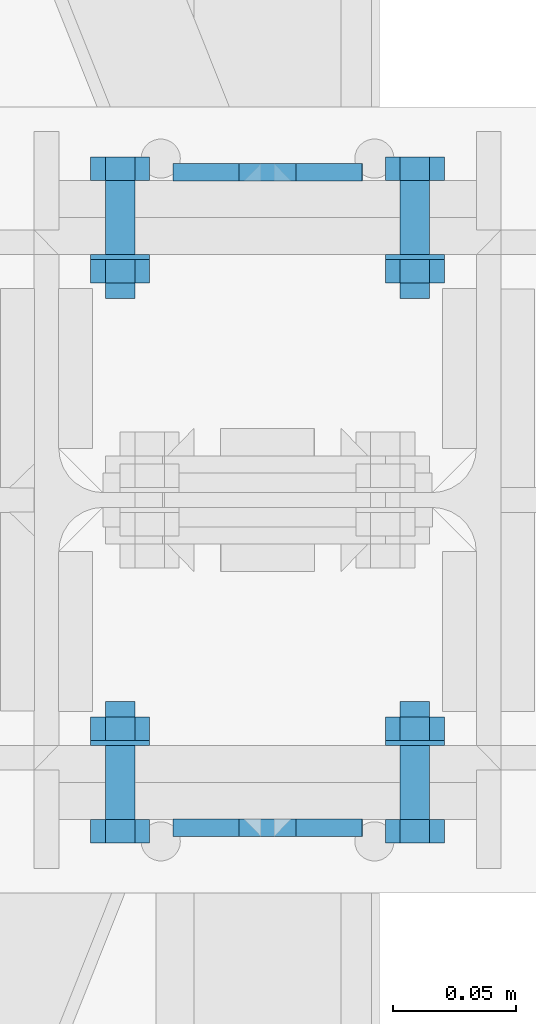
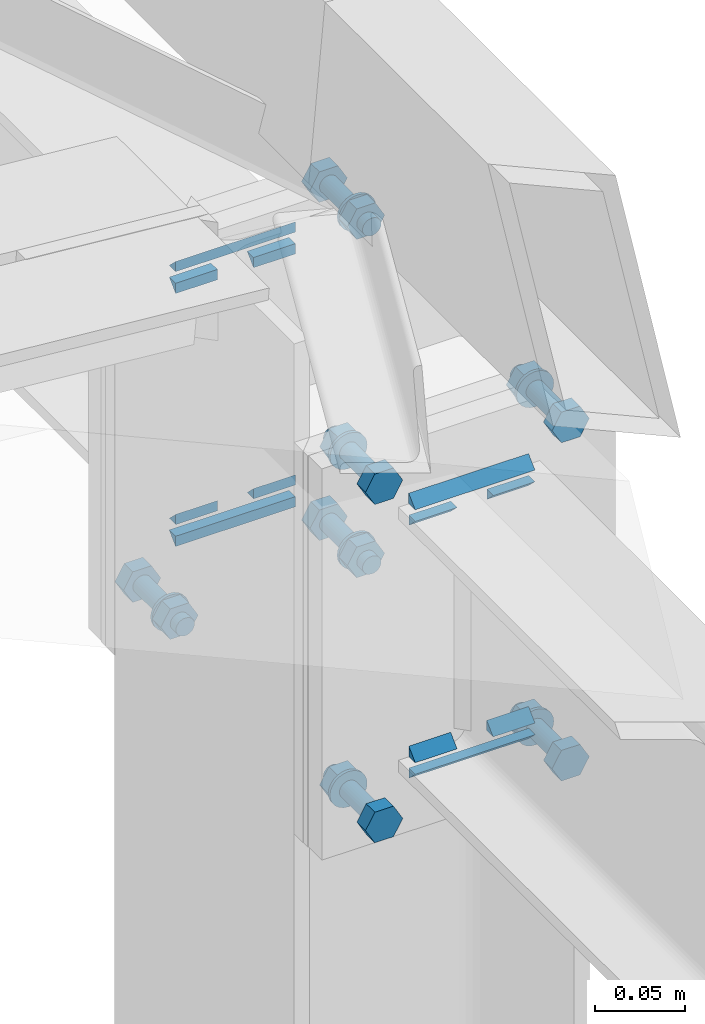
# One storey, part 184 of 251: 28 mechanical fasteners, 24 fasteners.
"""IFC4 building model written with IfcOpenShell, lengths in metres."""

from ifc_helpers import new_model, si_unit, frame, origin_with_axes, place, context, project, spatial, polyline, outline, extrude, type_object, element, save


model = new_model("IFC4")

# Units and contexts
model_context = context("Model", 3, precision=1e-05, world=origin_with_axes())
ifc_project = project(units=[si_unit("LENGTHUNIT", "METRE"), si_unit("AREAUNIT", "SQUARE_METRE"), si_unit("VOLUMEUNIT", "CUBIC_METRE"), si_unit("MASSUNIT", "GRAM", prefix="KILO"), si_unit("TIMEUNIT", "SECOND"), si_unit("PLANEANGLEUNIT", "RADIAN"), si_unit("SOLIDANGLEUNIT", "STERADIAN"), si_unit("THERMODYNAMICTEMPERATUREUNIT", "DEGREE_CELSIUS")], contexts=[model_context])

# Site, building, storey
placement_1 = place(None, origin_with_axes())
site = spatial("IfcSite", under=ifc_project, at=placement_1, Name="Italia", CompositionType="ELEMENT")
building = spatial("IfcBuilding", under=site, at=placement_1, Name="Deposito", CompositionType="ELEMENT")
storey = spatial("IfcBuildingStorey", under=building, at=placement_1, Name="Storey 0", CompositionType="ELEMENT", Elevation=0.0)

# Fasteners
fastener_type_1 = type_object("IfcFastenerType", Name="Collegamenti -064_-065 -065_-064 -065_-066 -066_-065 -066_-067 -067_-066 -067_-068 -068_-067", PredefinedType="WELD")
placement_2 = place(placement_1, origin_with_axes())
fastener_1_placement = place(placement_2, origin_with_axes())
element("IfcFastener", 1, at=fastener_1_placement, inside=storey, type_object=fastener_type_1, Name="Collegamenti -064_-065 -065_-064 -065_-066 -066_-065 -066_-067 -067_-066 -067_-068 -068_-067", context=model_context, shape_type="SweptSolid", body=[
    extrude(outline(polyline([(0.0, 0.0), (0.00717354, -0.00695801), (0.0, -0.00695801), (0.0, 0.0)])), frame((20.0385, 14.8701, 5.89691), z_axis=(-1.0, 0.0, 0.0), x_axis=(0.0, -1.0, 0.0)), (0.0, 0.0, 1.0), 0.0770988),
])
fastener_type_2 = type_object("IfcFastenerType", Name="Collegamenti -064_-065 -065_-064 -065_-066 -066_-065 -066_-067 -067_-066 -067_-068 -068_-067", PredefinedType="WELD")
fastener_2_placement = place(placement_2, origin_with_axes())
element("IfcFastener", 2, at=fastener_2_placement, inside=storey, type_object=fastener_type_2, Name="Collegamenti -064_-065 -065_-064 -065_-066 -066_-065 -066_-067 -067_-066 -067_-068 -068_-067", context=model_context, shape_type="SweptSolid", body=[
    extrude(outline(polyline([(0.0, 0.0), (-0.00717354, 0.00695801), (0.0, 0.00695801), (0.0, 0.0)])), frame((20.0116, 14.8701, 5.87509), z_axis=(1.0, 0.0, 0.0), x_axis=(0.0, 1.0, 0.0)), (0.0, 0.0, 1.0), 0.0269508),
])
fastener_type_3 = type_object("IfcFastenerType", Name="Collegamenti -064_-065 -065_-064 -065_-066 -066_-065 -066_-067 -067_-066 -067_-068 -068_-067", PredefinedType="WELD")
fastener_3_placement = place(placement_2, origin_with_axes())
element("IfcFastener", 3, at=fastener_3_placement, inside=storey, type_object=fastener_type_3, Name="Collegamenti -064_-065 -065_-064 -065_-066 -066_-065 -066_-067 -067_-066 -067_-068 -068_-067", context=model_context, shape_type="SweptSolid", body=[
    extrude(outline(polyline([(0.0, 0.0), (0.00717354, -0.00695801), (0.0, -0.00695801), (0.0, 0.0)])), frame((20.0385, 14.8701, 5.72491), z_axis=(-1.0, 0.0, 0.0), x_axis=(0.0, -1.0, 0.0)), (0.0, 0.0, 1.0), 0.0269508),
])
fastener_type_4 = type_object("IfcFastenerType", Name="Collegamenti -064_-065 -065_-064 -065_-066 -066_-065 -066_-067 -067_-066 -067_-068 -068_-067", PredefinedType="WELD")
fastener_4_placement = place(placement_2, origin_with_axes())
element("IfcFastener", 4, at=fastener_4_placement, inside=storey, type_object=fastener_type_4, Name="Collegamenti -064_-065 -065_-064 -065_-066 -066_-065 -066_-067 -067_-066 -067_-068 -068_-067", context=model_context, shape_type="SweptSolid", body=[
    extrude(outline(polyline([(0.0, 0.0), (-0.00717354, 0.00695801), (0.0, 0.00695801), (0.0, 0.0)])), frame((19.9615, 14.8701, 5.70309), z_axis=(1.0, 0.0, 0.0), x_axis=(0.0, 1.0, 0.0)), (0.0, 0.0, 1.0), 0.0770988),
])
fastener_type_5 = type_object("IfcFastenerType", Name="Collegamenti -064_-065 -065_-064 -065_-066 -066_-065 -066_-067 -067_-066 -067_-068 -068_-067", PredefinedType="WELD")
fastener_5_placement = place(placement_2, origin_with_axes())
element("IfcFastener", 5, at=fastener_5_placement, inside=storey, type_object=fastener_type_5, Name="Collegamenti -064_-065 -065_-064 -065_-066 -066_-065 -066_-067 -067_-066 -067_-068 -068_-067", context=model_context, shape_type="SweptSolid", body=[
    extrude(outline(polyline([(0.0, 0.0), (0.00717354, -0.00695801), (0.0, -0.00695801), (0.0, 0.0)])), frame((19.9884, 14.8701, 5.72491), z_axis=(-1.0, 0.0, 0.0), x_axis=(0.0, -1.0, 0.0)), (0.0, 0.0, 1.0), 0.0269508),
])
fastener_type_6 = type_object("IfcFastenerType", Name="Collegamenti -064_-065 -065_-064 -065_-066 -066_-065 -066_-067 -067_-066 -067_-068 -068_-067", PredefinedType="WELD")
fastener_6_placement = place(placement_2, origin_with_axes())
element("IfcFastener", 6, at=fastener_6_placement, inside=storey, type_object=fastener_type_6, Name="Collegamenti -064_-065 -065_-064 -065_-066 -066_-065 -066_-067 -067_-066 -067_-068 -068_-067", context=model_context, shape_type="SweptSolid", body=[
    extrude(outline(polyline([(0.0, 0.0), (-0.00717354, 0.00695801), (0.0, 0.00695801), (0.0, 0.0)])), frame((19.9615, 14.8701, 5.87509), z_axis=(1.0, 0.0, 0.0), x_axis=(0.0, 1.0, 0.0)), (0.0, 0.0, 1.0), 0.0269508),
])
fastener_type_7 = type_object("IfcFastenerType", Name="Collegamenti -064_-065 -065_-064 -065_-066 -066_-065 -066_-067 -067_-066 -067_-068 -068_-067", PredefinedType="WELD")
fastener_7_placement = place(placement_2, origin_with_axes())
element("IfcFastener", 7, at=fastener_7_placement, inside=storey, type_object=fastener_type_7, Name="Collegamenti -064_-065 -065_-064 -065_-066 -066_-065 -066_-067 -067_-066 -067_-068 -068_-067", context=model_context, shape_type="SweptSolid", body=[
    extrude(outline(polyline([(0.0, 0.0), (0.00717354, -0.00695801), (0.0, -0.00695801), (0.0, 0.0)])), frame((20.0385, 14.8701, 5.89691), z_axis=(-1.0, 0.0, 0.0), x_axis=(0.0, -1.0, 0.0)), (0.0, 0.0, 1.0), 0.0770988),
])
fastener_type_8 = type_object("IfcFastenerType", Name="Collegamenti -064_-065 -065_-064 -065_-066 -066_-065 -066_-067 -067_-066 -067_-068 -068_-067", PredefinedType="WELD")
fastener_8_placement = place(placement_2, origin_with_axes())
element("IfcFastener", 8, at=fastener_8_placement, inside=storey, type_object=fastener_type_8, Name="Collegamenti -064_-065 -065_-064 -065_-066 -066_-065 -066_-067 -067_-066 -067_-068 -068_-067", context=model_context, shape_type="SweptSolid", body=[
    extrude(outline(polyline([(0.0, 0.0), (-0.00717354, 0.00695801), (0.0, 0.00695801), (0.0, 0.0)])), frame((20.0116, 14.8701, 5.87509), z_axis=(1.0, 0.0, 0.0), x_axis=(0.0, 1.0, 0.0)), (0.0, 0.0, 1.0), 0.0269508),
])
fastener_type_9 = type_object("IfcFastenerType", Name="Collegamenti -064_-065 -065_-064 -065_-066 -066_-065 -066_-067 -067_-066 -067_-068 -068_-067", PredefinedType="WELD")
fastener_9_placement = place(placement_2, origin_with_axes())
element("IfcFastener", 9, at=fastener_9_placement, inside=storey, type_object=fastener_type_9, Name="Collegamenti -064_-065 -065_-064 -065_-066 -066_-065 -066_-067 -067_-066 -067_-068 -068_-067", context=model_context, shape_type="SweptSolid", body=[
    extrude(outline(polyline([(0.0, 0.0), (0.00717354, -0.00695801), (0.0, -0.00695801), (0.0, 0.0)])), frame((20.0385, 14.8701, 5.72491), z_axis=(-1.0, 0.0, 0.0), x_axis=(0.0, -1.0, 0.0)), (0.0, 0.0, 1.0), 0.0269508),
])
fastener_type_10 = type_object("IfcFastenerType", Name="Collegamenti -064_-065 -065_-064 -065_-066 -066_-065 -066_-067 -067_-066 -067_-068 -068_-067", PredefinedType="WELD")
fastener_10_placement = place(placement_2, origin_with_axes())
element("IfcFastener", 10, at=fastener_10_placement, inside=storey, type_object=fastener_type_10, Name="Collegamenti -064_-065 -065_-064 -065_-066 -066_-065 -066_-067 -067_-066 -067_-068 -068_-067", context=model_context, shape_type="SweptSolid", body=[
    extrude(outline(polyline([(0.0, 0.0), (-0.00717354, 0.00695801), (0.0, 0.00695801), (0.0, 0.0)])), frame((19.9615, 14.8701, 5.70309), z_axis=(1.0, 0.0, 0.0), x_axis=(0.0, 1.0, 0.0)), (0.0, 0.0, 1.0), 0.0770988),
])
fastener_type_11 = type_object("IfcFastenerType", Name="Collegamenti -064_-065 -065_-064 -065_-066 -066_-065 -066_-067 -067_-066 -067_-068 -068_-067", PredefinedType="WELD")
fastener_11_placement = place(placement_2, origin_with_axes())
element("IfcFastener", 11, at=fastener_11_placement, inside=storey, type_object=fastener_type_11, Name="Collegamenti -064_-065 -065_-064 -065_-066 -066_-065 -066_-067 -067_-066 -067_-068 -068_-067", context=model_context, shape_type="SweptSolid", body=[
    extrude(outline(polyline([(0.0, 0.0), (0.00717354, -0.00695801), (0.0, -0.00695801), (0.0, 0.0)])), frame((19.9884, 14.8701, 5.72491), z_axis=(-1.0, 0.0, 0.0), x_axis=(0.0, -1.0, 0.0)), (0.0, 0.0, 1.0), 0.0269508),
])
fastener_type_12 = type_object("IfcFastenerType", Name="Collegamenti -064_-065 -065_-064 -065_-066 -066_-065 -066_-067 -067_-066 -067_-068 -068_-067", PredefinedType="WELD")
fastener_12_placement = place(placement_2, origin_with_axes())
element("IfcFastener", 12, at=fastener_12_placement, inside=storey, type_object=fastener_type_12, Name="Collegamenti -064_-065 -065_-064 -065_-066 -066_-065 -066_-067 -067_-066 -067_-068 -068_-067", context=model_context, shape_type="SweptSolid", body=[
    extrude(outline(polyline([(0.0, 0.0), (-0.00717354, 0.00695801), (0.0, 0.00695801), (0.0, 0.0)])), frame((19.9615, 14.8701, 5.87509), z_axis=(1.0, 0.0, 0.0), x_axis=(0.0, 1.0, 0.0)), (0.0, 0.0, 1.0), 0.0269508),
])

# Mechanical fasteners
mechanical_fastener_type_1 = type_object("IfcMechanicalFastenerType", Name="Collegamenti -064_-065 -065_-064 -065_-066 -066_-065 -066_-067 -067_-066 -067_-068 -068_-067", PredefinedType="BOLT")
mechanical_fastener_1_placement = place(placement_2, origin_with_axes())
element("IfcMechanicalFastener", 13, at=mechanical_fastener_1_placement, inside=storey, type_object=mechanical_fastener_type_1, Name="Collegamenti -064_-065 -065_-064 -065_-066 -066_-065 -066_-067 -067_-066 -067_-068 -068_-067", NominalDiameter=0.0119991, context=model_context, shape_type="SweptSolid", body=[
    extrude(outline(polyline([(0.0, 0.0), (-0.0119991, 0.0), (-0.0179996, 0.0103927), (-0.0119991, 0.0207849), (0.0, 0.0207849), (0.00600052, 0.0103927), (0.0, 0.0)])), frame((19.946, 14.87, 5.67461), z_axis=(0.0, -1.0, 0.0), x_axis=(1.0, 0.0, 0.0)), (0.0, 0.0, 1.0), 0.00959969),
])
mechanical_fastener_type_2 = type_object("IfcMechanicalFastenerType", Name="Collegamenti -064_-065 -065_-064 -065_-066 -066_-065 -066_-067 -067_-066 -067_-068 -068_-067", PredefinedType="BOLT")
mechanical_fastener_2_placement = place(placement_2, origin_with_axes())
element("IfcMechanicalFastener", 14, at=mechanical_fastener_2_placement, inside=storey, type_object=mechanical_fastener_type_2, Name="Collegamenti -064_-065 -065_-064 -065_-066 -066_-065 -066_-067 -067_-066 -067_-068 -068_-067", NominalDiameter=0.012, context=model_context, shape_type="SweptSolid", body=[
    extrude(outline(polyline([(0.0, 0.0), (-0.000204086, -0.00155306), (-0.000804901, -0.00299978), (-0.00175858, -0.00424242), (-0.00300026, -0.00519609), (-0.00444794, -0.00579548), (-0.00600052, -0.00600004), (-0.0075531, -0.00579548), (-0.00900078, -0.00519609), (-0.0102425, -0.00424242), (-0.0111961, -0.00299978), (-0.011797, -0.00155306), (-0.012001, 0.0), (-0.011797, 0.00155306), (-0.0111961, 0.00299978), (-0.0102425, 0.00424242), (-0.00900078, 0.00519609), (-0.0075531, 0.00579548), (-0.00600052, 0.00600004), (-0.00444794, 0.00579548), (-0.00300026, 0.00519609), (-0.00175858, 0.00424242), (-0.000804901, 0.00299978), (-0.000204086, 0.00155306), (0.0, 0.0)])), frame((19.946, 14.918, 5.685), z_axis=(0.0, -1.0, 0.0), x_axis=(1.0, 0.0, 0.0)), (0.0, 0.0, 1.0), 0.0480003),
])
mechanical_fastener_type_3 = type_object("IfcMechanicalFastenerType", Name="Collegamenti -064_-065 -065_-064 -065_-066 -066_-065 -066_-067 -067_-066 -067_-068 -068_-067", PredefinedType="BOLT")
mechanical_fastener_3_placement = place(placement_2, origin_with_axes())
element("IfcMechanicalFastener", 15, at=mechanical_fastener_3_placement, inside=storey, type_object=mechanical_fastener_type_3, Name="Collegamenti -064_-065 -065_-064 -065_-066 -066_-065 -066_-067 -067_-066 -067_-068 -068_-067", NominalDiameter=0.0119991, context=model_context, shape_type="SweptSolid", body=[
    extrude(outline(polyline([(0.0, 0.0), (-0.0119991, 0.0), (-0.0179996, 0.0103927), (-0.0119991, 0.0207849), (0.0, 0.0207849), (0.00600052, 0.0103927), (0.0, 0.0)])), frame((19.946, 14.9116, 5.67461), z_axis=(0.0, -1.0, 0.0), x_axis=(1.0, 0.0, 0.0)), (0.0, 0.0, 1.0), 0.00959969),
])
mechanical_fastener_type_4 = type_object("IfcMechanicalFastenerType", Name="Collegamenti -064_-065 -065_-064 -065_-066 -066_-065 -066_-067 -067_-066 -067_-068 -068_-067", PredefinedType="BOLT")
mechanical_fastener_4_placement = place(placement_2, origin_with_axes())
element("IfcMechanicalFastener", 16, at=mechanical_fastener_4_placement, inside=storey, type_object=mechanical_fastener_type_4, Name="Collegamenti -064_-065 -065_-064 -065_-066 -066_-065 -066_-067 -067_-066 -067_-068 -068_-067", NominalDiameter=0.024, context=model_context, shape_type="SweptSolid", body=[
    extrude(outline(polyline([(0.0, 0.0), (-0.000408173, -0.00310564), (-0.00160599, -0.00600004), (-0.00351334, -0.00848532), (-0.00599861, -0.0103922), (-0.00889397, -0.011591), (-0.0119991, -0.0120001), (-0.0151043, -0.011591), (-0.0179996, -0.0103922), (-0.0204849, -0.00848532), (-0.0223923, -0.00600004), (-0.0235901, -0.00310564), (-0.0239983, 0.0), (-0.0235901, 0.00310564), (-0.0223923, 0.00600004), (-0.0204849, 0.00848532), (-0.0179996, 0.0103922), (-0.0151043, 0.011591), (-0.0119991, 0.0120001), (-0.00889397, 0.011591), (-0.00599861, 0.0103922), (-0.00351334, 0.00848532), (-0.00160599, 0.00600004), (-0.000408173, 0.00310564), (0.0, 0.0)])), frame((19.952, 14.902, 5.685), z_axis=(0.0, -1.0, 0.0), x_axis=(1.0, 0.0, 0.0)), (0.0, 0.0, 1.0), 0.00200081),
])
mechanical_fastener_type_5 = type_object("IfcMechanicalFastenerType", Name="Collegamenti -064_-065 -065_-064 -065_-066 -066_-065 -066_-067 -067_-066 -067_-068 -068_-067", PredefinedType="BOLT")
mechanical_fastener_5_placement = place(placement_2, origin_with_axes())
element("IfcMechanicalFastener", 17, at=mechanical_fastener_5_placement, inside=storey, type_object=mechanical_fastener_type_5, Name="Collegamenti -064_-065 -065_-064 -065_-066 -066_-065 -066_-067 -067_-066 -067_-068 -068_-067", NominalDiameter=0.0119991, context=model_context, shape_type="SweptSolid", body=[
    extrude(outline(polyline([(0.0, 0.0), (-0.0119991, 0.0), (-0.0179996, 0.0103927), (-0.0119991, 0.0207849), (0.0, 0.0207849), (0.00600052, 0.0103927), (0.0, 0.0)])), frame((20.066, 14.87, 5.67461), z_axis=(0.0, -1.0, 0.0), x_axis=(1.0, 0.0, 0.0)), (0.0, 0.0, 1.0), 0.00959969),
])
mechanical_fastener_type_6 = type_object("IfcMechanicalFastenerType", Name="Collegamenti -064_-065 -065_-064 -065_-066 -066_-065 -066_-067 -067_-066 -067_-068 -068_-067", PredefinedType="BOLT")
mechanical_fastener_6_placement = place(placement_2, origin_with_axes())
element("IfcMechanicalFastener", 18, at=mechanical_fastener_6_placement, inside=storey, type_object=mechanical_fastener_type_6, Name="Collegamenti -064_-065 -065_-064 -065_-066 -066_-065 -066_-067 -067_-066 -067_-068 -068_-067", NominalDiameter=0.012, context=model_context, shape_type="SweptSolid", body=[
    extrude(outline(polyline([(0.0, 0.0), (-0.000204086, -0.00155306), (-0.000804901, -0.00299978), (-0.00175858, -0.00424242), (-0.00300026, -0.00519609), (-0.00444794, -0.00579548), (-0.00600052, -0.00600004), (-0.0075531, -0.00579548), (-0.00900078, -0.00519609), (-0.0102425, -0.00424242), (-0.0111961, -0.00299978), (-0.011797, -0.00155306), (-0.012001, 0.0), (-0.011797, 0.00155306), (-0.0111961, 0.00299978), (-0.0102425, 0.00424242), (-0.00900078, 0.00519609), (-0.0075531, 0.00579548), (-0.00600052, 0.00600004), (-0.00444794, 0.00579548), (-0.00300026, 0.00519609), (-0.00175858, 0.00424242), (-0.000804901, 0.00299978), (-0.000204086, 0.00155306), (0.0, 0.0)])), frame((20.066, 14.918, 5.685), z_axis=(0.0, -1.0, 0.0), x_axis=(1.0, 0.0, 0.0)), (0.0, 0.0, 1.0), 0.0480003),
])
mechanical_fastener_type_7 = type_object("IfcMechanicalFastenerType", Name="Collegamenti -064_-065 -065_-064 -065_-066 -066_-065 -066_-067 -067_-066 -067_-068 -068_-067", PredefinedType="BOLT")
mechanical_fastener_7_placement = place(placement_2, origin_with_axes())
element("IfcMechanicalFastener", 19, at=mechanical_fastener_7_placement, inside=storey, type_object=mechanical_fastener_type_7, Name="Collegamenti -064_-065 -065_-064 -065_-066 -066_-065 -066_-067 -067_-066 -067_-068 -068_-067", NominalDiameter=0.0119991, context=model_context, shape_type="SweptSolid", body=[
    extrude(outline(polyline([(0.0, 0.0), (-0.0119991, 0.0), (-0.0179996, 0.0103927), (-0.0119991, 0.0207849), (0.0, 0.0207849), (0.00600052, 0.0103927), (0.0, 0.0)])), frame((20.066, 14.9116, 5.67461), z_axis=(0.0, -1.0, 0.0), x_axis=(1.0, 0.0, 0.0)), (0.0, 0.0, 1.0), 0.00959969),
])
mechanical_fastener_type_8 = type_object("IfcMechanicalFastenerType", Name="Collegamenti -064_-065 -065_-064 -065_-066 -066_-065 -066_-067 -067_-066 -067_-068 -068_-067", PredefinedType="BOLT")
mechanical_fastener_8_placement = place(placement_2, origin_with_axes())
element("IfcMechanicalFastener", 20, at=mechanical_fastener_8_placement, inside=storey, type_object=mechanical_fastener_type_8, Name="Collegamenti -064_-065 -065_-064 -065_-066 -066_-065 -066_-067 -067_-066 -067_-068 -068_-067", NominalDiameter=0.024, context=model_context, shape_type="SweptSolid", body=[
    extrude(outline(polyline([(0.0, 0.0), (-0.000408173, -0.00310564), (-0.00160599, -0.00600004), (-0.00351334, -0.00848532), (-0.00599861, -0.0103922), (-0.00889397, -0.011591), (-0.0119991, -0.0120001), (-0.0151043, -0.011591), (-0.0179996, -0.0103922), (-0.0204849, -0.00848532), (-0.0223923, -0.00600004), (-0.0235901, -0.00310564), (-0.0239983, 0.0), (-0.0235901, 0.00310564), (-0.0223923, 0.00600004), (-0.0204849, 0.00848532), (-0.0179996, 0.0103922), (-0.0151043, 0.011591), (-0.0119991, 0.0120001), (-0.00889397, 0.011591), (-0.00599861, 0.0103922), (-0.00351334, 0.00848532), (-0.00160599, 0.00600004), (-0.000408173, 0.00310564), (0.0, 0.0)])), frame((20.072, 14.902, 5.685), z_axis=(0.0, -1.0, 0.0), x_axis=(1.0, 0.0, 0.0)), (0.0, 0.0, 1.0), 0.00200081),
])
mechanical_fastener_type_9 = type_object("IfcMechanicalFastenerType", Name="Collegamenti -064_-065 -065_-064 -065_-066 -066_-065 -066_-067 -067_-066 -067_-068 -068_-067", PredefinedType="BOLT")
mechanical_fastener_9_placement = place(placement_2, origin_with_axes())
element("IfcMechanicalFastener", 21, at=mechanical_fastener_9_placement, inside=storey, type_object=mechanical_fastener_type_9, Name="Collegamenti -064_-065 -065_-064 -065_-066 -066_-065 -066_-067 -067_-066 -067_-068 -068_-067", NominalDiameter=0.0119991, context=model_context, shape_type="SweptSolid", body=[
    extrude(outline(polyline([(0.0, 0.0), (-0.0119991, 0.0), (-0.0179996, 0.0103922), (-0.0119991, 0.0207849), (0.0, 0.0207849), (0.00600052, 0.0103922), (0.0, 0.0)])), frame((19.946, 14.87, 5.90461), z_axis=(0.0, -1.0, 0.0), x_axis=(1.0, 0.0, 0.0)), (0.0, 0.0, 1.0), 0.00959969),
])
mechanical_fastener_type_10 = type_object("IfcMechanicalFastenerType", Name="Collegamenti -064_-065 -065_-064 -065_-066 -066_-065 -066_-067 -067_-066 -067_-068 -068_-067", PredefinedType="BOLT")
mechanical_fastener_10_placement = place(placement_2, origin_with_axes())
element("IfcMechanicalFastener", 22, at=mechanical_fastener_10_placement, inside=storey, type_object=mechanical_fastener_type_10, Name="Collegamenti -064_-065 -065_-064 -065_-066 -066_-065 -066_-067 -067_-066 -067_-068 -068_-067", NominalDiameter=0.012, context=model_context, shape_type="SweptSolid", body=[
    extrude(outline(polyline([(0.0, 0.0), (-0.000204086, -0.00155306), (-0.000804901, -0.00299978), (-0.00175858, -0.00424242), (-0.00300026, -0.00519609), (-0.00444794, -0.00579548), (-0.00600052, -0.00600004), (-0.0075531, -0.00579548), (-0.00900078, -0.00519609), (-0.0102425, -0.00424242), (-0.0111961, -0.00299978), (-0.011797, -0.00155306), (-0.012001, 0.0), (-0.011797, 0.00155306), (-0.0111961, 0.00299978), (-0.0102425, 0.00424242), (-0.00900078, 0.00519609), (-0.0075531, 0.00579548), (-0.00600052, 0.00600004), (-0.00444794, 0.00579548), (-0.00300026, 0.00519609), (-0.00175858, 0.00424242), (-0.000804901, 0.00299978), (-0.000204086, 0.00155306), (0.0, 0.0)])), frame((19.946, 14.918, 5.915), z_axis=(0.0, -1.0, 0.0), x_axis=(1.0, 0.0, 0.0)), (0.0, 0.0, 1.0), 0.0480003),
])
mechanical_fastener_type_11 = type_object("IfcMechanicalFastenerType", Name="Collegamenti -064_-065 -065_-064 -065_-066 -066_-065 -066_-067 -067_-066 -067_-068 -068_-067", PredefinedType="BOLT")
mechanical_fastener_11_placement = place(placement_2, origin_with_axes())
element("IfcMechanicalFastener", 23, at=mechanical_fastener_11_placement, inside=storey, type_object=mechanical_fastener_type_11, Name="Collegamenti -064_-065 -065_-064 -065_-066 -066_-065 -066_-067 -067_-066 -067_-068 -068_-067", NominalDiameter=0.0119991, context=model_context, shape_type="SweptSolid", body=[
    extrude(outline(polyline([(0.0, 0.0), (-0.0119991, 0.0), (-0.0179996, 0.0103922), (-0.0119991, 0.0207849), (0.0, 0.0207849), (0.00600052, 0.0103922), (0.0, 0.0)])), frame((19.946, 14.9116, 5.90461), z_axis=(0.0, -1.0, 0.0), x_axis=(1.0, 0.0, 0.0)), (0.0, 0.0, 1.0), 0.00959969),
])
mechanical_fastener_type_12 = type_object("IfcMechanicalFastenerType", Name="Collegamenti -064_-065 -065_-064 -065_-066 -066_-065 -066_-067 -067_-066 -067_-068 -068_-067", PredefinedType="BOLT")
mechanical_fastener_12_placement = place(placement_2, origin_with_axes())
element("IfcMechanicalFastener", 24, at=mechanical_fastener_12_placement, inside=storey, type_object=mechanical_fastener_type_12, Name="Collegamenti -064_-065 -065_-064 -065_-066 -066_-065 -066_-067 -067_-066 -067_-068 -068_-067", NominalDiameter=0.024, context=model_context, shape_type="SweptSolid", body=[
    extrude(outline(polyline([(0.0, 0.0), (-0.000408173, -0.00310564), (-0.00160599, -0.00600004), (-0.00351334, -0.00848532), (-0.00599861, -0.0103922), (-0.00889397, -0.011591), (-0.0119991, -0.0120001), (-0.0151043, -0.011591), (-0.0179996, -0.0103922), (-0.0204849, -0.00848532), (-0.0223923, -0.00600004), (-0.0235901, -0.00310564), (-0.0239983, 0.0), (-0.0235901, 0.00310564), (-0.0223923, 0.00600004), (-0.0204849, 0.00848532), (-0.0179996, 0.0103922), (-0.0151043, 0.011591), (-0.0119991, 0.0120001), (-0.00889397, 0.011591), (-0.00599861, 0.0103922), (-0.00351334, 0.00848532), (-0.00160599, 0.00600004), (-0.000408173, 0.00310564), (0.0, 0.0)])), frame((19.952, 14.902, 5.915), z_axis=(0.0, -1.0, 0.0), x_axis=(1.0, 0.0, 0.0)), (0.0, 0.0, 1.0), 0.00200081),
])
mechanical_fastener_type_13 = type_object("IfcMechanicalFastenerType", Name="Collegamenti -064_-065 -065_-064 -065_-066 -066_-065 -066_-067 -067_-066 -067_-068 -068_-067", PredefinedType="BOLT")
mechanical_fastener_13_placement = place(placement_2, origin_with_axes())
element("IfcMechanicalFastener", 25, at=mechanical_fastener_13_placement, inside=storey, type_object=mechanical_fastener_type_13, Name="Collegamenti -064_-065 -065_-064 -065_-066 -066_-065 -066_-067 -067_-066 -067_-068 -068_-067", NominalDiameter=0.0119991, context=model_context, shape_type="SweptSolid", body=[
    extrude(outline(polyline([(0.0, 0.0), (-0.0119991, 0.0), (-0.0179996, 0.0103922), (-0.0119991, 0.0207849), (0.0, 0.0207849), (0.00600052, 0.0103922), (0.0, 0.0)])), frame((20.066, 14.87, 5.90461), z_axis=(0.0, -1.0, 0.0), x_axis=(1.0, 0.0, 0.0)), (0.0, 0.0, 1.0), 0.00959969),
])
mechanical_fastener_type_14 = type_object("IfcMechanicalFastenerType", Name="Collegamenti -064_-065 -065_-064 -065_-066 -066_-065 -066_-067 -067_-066 -067_-068 -068_-067", PredefinedType="BOLT")
mechanical_fastener_14_placement = place(placement_2, origin_with_axes())
element("IfcMechanicalFastener", 26, at=mechanical_fastener_14_placement, inside=storey, type_object=mechanical_fastener_type_14, Name="Collegamenti -064_-065 -065_-064 -065_-066 -066_-065 -066_-067 -067_-066 -067_-068 -068_-067", NominalDiameter=0.012, context=model_context, shape_type="SweptSolid", body=[
    extrude(outline(polyline([(0.0, 0.0), (-0.000204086, -0.00155306), (-0.000804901, -0.00299978), (-0.00175858, -0.00424242), (-0.00300026, -0.00519609), (-0.00444794, -0.00579548), (-0.00600052, -0.00600004), (-0.0075531, -0.00579548), (-0.00900078, -0.00519609), (-0.0102425, -0.00424242), (-0.0111961, -0.00299978), (-0.011797, -0.00155306), (-0.012001, 0.0), (-0.011797, 0.00155306), (-0.0111961, 0.00299978), (-0.0102425, 0.00424242), (-0.00900078, 0.00519609), (-0.0075531, 0.00579548), (-0.00600052, 0.00600004), (-0.00444794, 0.00579548), (-0.00300026, 0.00519609), (-0.00175858, 0.00424242), (-0.000804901, 0.00299978), (-0.000204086, 0.00155306), (0.0, 0.0)])), frame((20.066, 14.918, 5.915), z_axis=(0.0, -1.0, 0.0), x_axis=(1.0, 0.0, 0.0)), (0.0, 0.0, 1.0), 0.0480003),
])
mechanical_fastener_type_15 = type_object("IfcMechanicalFastenerType", Name="Collegamenti -064_-065 -065_-064 -065_-066 -066_-065 -066_-067 -067_-066 -067_-068 -068_-067", PredefinedType="BOLT")
mechanical_fastener_15_placement = place(placement_2, origin_with_axes())
element("IfcMechanicalFastener", 27, at=mechanical_fastener_15_placement, inside=storey, type_object=mechanical_fastener_type_15, Name="Collegamenti -064_-065 -065_-064 -065_-066 -066_-065 -066_-067 -067_-066 -067_-068 -068_-067", NominalDiameter=0.0119991, context=model_context, shape_type="SweptSolid", body=[
    extrude(outline(polyline([(0.0, 0.0), (-0.0119991, 0.0), (-0.0179996, 0.0103922), (-0.0119991, 0.0207849), (0.0, 0.0207849), (0.00600052, 0.0103922), (0.0, 0.0)])), frame((20.066, 14.9116, 5.90461), z_axis=(0.0, -1.0, 0.0), x_axis=(1.0, 0.0, 0.0)), (0.0, 0.0, 1.0), 0.00959969),
])
mechanical_fastener_type_16 = type_object("IfcMechanicalFastenerType", Name="Collegamenti -064_-065 -065_-064 -065_-066 -066_-065 -066_-067 -067_-066 -067_-068 -068_-067", PredefinedType="BOLT")
mechanical_fastener_16_placement = place(placement_2, origin_with_axes())
element("IfcMechanicalFastener", 28, at=mechanical_fastener_16_placement, inside=storey, type_object=mechanical_fastener_type_16, Name="Collegamenti -064_-065 -065_-064 -065_-066 -066_-065 -066_-067 -067_-066 -067_-068 -068_-067", NominalDiameter=0.024, context=model_context, shape_type="SweptSolid", body=[
    extrude(outline(polyline([(0.0, 0.0), (-0.000408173, -0.00310564), (-0.00160599, -0.00600004), (-0.00351334, -0.00848532), (-0.00599861, -0.0103922), (-0.00889397, -0.011591), (-0.0119991, -0.0120001), (-0.0151043, -0.011591), (-0.0179996, -0.0103922), (-0.0204849, -0.00848532), (-0.0223923, -0.00600004), (-0.0235901, -0.00310564), (-0.0239983, 0.0), (-0.0235901, 0.00310564), (-0.0223923, 0.00600004), (-0.0204849, 0.00848532), (-0.0179996, 0.0103922), (-0.0151043, 0.011591), (-0.0119991, 0.0120001), (-0.00889397, 0.011591), (-0.00599861, 0.0103922), (-0.00351334, 0.00848532), (-0.00160599, 0.00600004), (-0.000408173, 0.00310564), (0.0, 0.0)])), frame((20.072, 14.902, 5.915), z_axis=(0.0, -1.0, 0.0), x_axis=(1.0, 0.0, 0.0)), (0.0, 0.0, 1.0), 0.00200081),
])

# Fasteners
fastener_type_13 = type_object("IfcFastenerType", Name="Collegamenti -064_-065 -065_-064 -065_-066 -066_-065 -066_-067 -067_-066 -067_-068 -068_-067", PredefinedType="WELD")
fastener_13_placement = place(placement_2, origin_with_axes())
element("IfcFastener", 29, at=fastener_13_placement, inside=storey, type_object=fastener_type_13, Name="Collegamenti -064_-065 -065_-064 -065_-066 -066_-065 -066_-067 -067_-066 -067_-068 -068_-067", context=model_context, shape_type="SweptSolid", body=[
    extrude(outline(polyline([(0.0, 0.0), (0.00717354, -0.00695801), (0.0, -0.00695801), (0.0, 0.0)])), frame((19.9615, 15.1299, 5.89691), z_axis=(1.0, 0.0, 0.0), x_axis=(0.0, 1.0, 0.0)), (0.0, 0.0, 1.0), 0.0770988),
])
fastener_type_14 = type_object("IfcFastenerType", Name="Collegamenti -064_-065 -065_-064 -065_-066 -066_-065 -066_-067 -067_-066 -067_-068 -068_-067", PredefinedType="WELD")
fastener_14_placement = place(placement_2, origin_with_axes())
element("IfcFastener", 30, at=fastener_14_placement, inside=storey, type_object=fastener_type_14, Name="Collegamenti -064_-065 -065_-064 -065_-066 -066_-065 -066_-067 -067_-066 -067_-068 -068_-067", context=model_context, shape_type="SweptSolid", body=[
    extrude(outline(polyline([(0.0, 0.0), (-0.00717354, 0.00695801), (0.0, 0.00695801), (0.0, 0.0)])), frame((19.9884, 15.1299, 5.87509), z_axis=(-1.0, 0.0, 0.0), x_axis=(0.0, -1.0, 0.0)), (0.0, 0.0, 1.0), 0.0269508),
])
fastener_type_15 = type_object("IfcFastenerType", Name="Collegamenti -064_-065 -065_-064 -065_-066 -066_-065 -066_-067 -067_-066 -067_-068 -068_-067", PredefinedType="WELD")
fastener_15_placement = place(placement_2, origin_with_axes())
element("IfcFastener", 31, at=fastener_15_placement, inside=storey, type_object=fastener_type_15, Name="Collegamenti -064_-065 -065_-064 -065_-066 -066_-065 -066_-067 -067_-066 -067_-068 -068_-067", context=model_context, shape_type="SweptSolid", body=[
    extrude(outline(polyline([(0.0, 0.0), (0.00717354, -0.00695801), (0.0, -0.00695801), (0.0, 0.0)])), frame((19.9615, 15.1299, 5.72491), z_axis=(1.0, 0.0, 0.0), x_axis=(0.0, 1.0, 0.0)), (0.0, 0.0, 1.0), 0.0269508),
])
fastener_type_16 = type_object("IfcFastenerType", Name="Collegamenti -064_-065 -065_-064 -065_-066 -066_-065 -066_-067 -067_-066 -067_-068 -068_-067", PredefinedType="WELD")
fastener_16_placement = place(placement_2, origin_with_axes())
element("IfcFastener", 32, at=fastener_16_placement, inside=storey, type_object=fastener_type_16, Name="Collegamenti -064_-065 -065_-064 -065_-066 -066_-065 -066_-067 -067_-066 -067_-068 -068_-067", context=model_context, shape_type="SweptSolid", body=[
    extrude(outline(polyline([(0.0, 0.0), (-0.00717354, 0.00695801), (0.0, 0.00695801), (0.0, 0.0)])), frame((20.0385, 15.1299, 5.70309), z_axis=(-1.0, 0.0, 0.0), x_axis=(0.0, -1.0, 0.0)), (0.0, 0.0, 1.0), 0.0770988),
])
fastener_type_17 = type_object("IfcFastenerType", Name="Collegamenti -064_-065 -065_-064 -065_-066 -066_-065 -066_-067 -067_-066 -067_-068 -068_-067", PredefinedType="WELD")
fastener_17_placement = place(placement_2, origin_with_axes())
element("IfcFastener", 33, at=fastener_17_placement, inside=storey, type_object=fastener_type_17, Name="Collegamenti -064_-065 -065_-064 -065_-066 -066_-065 -066_-067 -067_-066 -067_-068 -068_-067", context=model_context, shape_type="SweptSolid", body=[
    extrude(outline(polyline([(0.0, 0.0), (0.00717354, -0.00695801), (0.0, -0.00695801), (0.0, 0.0)])), frame((20.0116, 15.1299, 5.72491), z_axis=(1.0, 0.0, 0.0), x_axis=(0.0, 1.0, 0.0)), (0.0, 0.0, 1.0), 0.0269508),
])
fastener_type_18 = type_object("IfcFastenerType", Name="Collegamenti -064_-065 -065_-064 -065_-066 -066_-065 -066_-067 -067_-066 -067_-068 -068_-067", PredefinedType="WELD")
fastener_18_placement = place(placement_2, origin_with_axes())
element("IfcFastener", 34, at=fastener_18_placement, inside=storey, type_object=fastener_type_18, Name="Collegamenti -064_-065 -065_-064 -065_-066 -066_-065 -066_-067 -067_-066 -067_-068 -068_-067", context=model_context, shape_type="SweptSolid", body=[
    extrude(outline(polyline([(0.0, 0.0), (-0.00717354, 0.00695801), (0.0, 0.00695801), (0.0, 0.0)])), frame((20.0385, 15.1299, 5.87509), z_axis=(-1.0, 0.0, 0.0), x_axis=(0.0, -1.0, 0.0)), (0.0, 0.0, 1.0), 0.0269508),
])
fastener_type_19 = type_object("IfcFastenerType", Name="Collegamenti -064_-065 -065_-064 -065_-066 -066_-065 -066_-067 -067_-066 -067_-068 -068_-067", PredefinedType="WELD")
fastener_19_placement = place(placement_2, origin_with_axes())
element("IfcFastener", 35, at=fastener_19_placement, inside=storey, type_object=fastener_type_19, Name="Collegamenti -064_-065 -065_-064 -065_-066 -066_-065 -066_-067 -067_-066 -067_-068 -068_-067", context=model_context, shape_type="SweptSolid", body=[
    extrude(outline(polyline([(0.0, 0.0), (0.00717354, -0.00695801), (0.0, -0.00695801), (0.0, 0.0)])), frame((19.9615, 15.1299, 5.89691), z_axis=(1.0, 0.0, 0.0), x_axis=(0.0, 1.0, 0.0)), (0.0, 0.0, 1.0), 0.0770988),
])
fastener_type_20 = type_object("IfcFastenerType", Name="Collegamenti -064_-065 -065_-064 -065_-066 -066_-065 -066_-067 -067_-066 -067_-068 -068_-067", PredefinedType="WELD")
fastener_20_placement = place(placement_2, origin_with_axes())
element("IfcFastener", 36, at=fastener_20_placement, inside=storey, type_object=fastener_type_20, Name="Collegamenti -064_-065 -065_-064 -065_-066 -066_-065 -066_-067 -067_-066 -067_-068 -068_-067", context=model_context, shape_type="SweptSolid", body=[
    extrude(outline(polyline([(0.0, 0.0), (-0.00717354, 0.00695801), (0.0, 0.00695801), (0.0, 0.0)])), frame((19.9884, 15.1299, 5.87509), z_axis=(-1.0, 0.0, 0.0), x_axis=(0.0, -1.0, 0.0)), (0.0, 0.0, 1.0), 0.0269508),
])
fastener_type_21 = type_object("IfcFastenerType", Name="Collegamenti -064_-065 -065_-064 -065_-066 -066_-065 -066_-067 -067_-066 -067_-068 -068_-067", PredefinedType="WELD")
fastener_21_placement = place(placement_2, origin_with_axes())
element("IfcFastener", 37, at=fastener_21_placement, inside=storey, type_object=fastener_type_21, Name="Collegamenti -064_-065 -065_-064 -065_-066 -066_-065 -066_-067 -067_-066 -067_-068 -068_-067", context=model_context, shape_type="SweptSolid", body=[
    extrude(outline(polyline([(0.0, 0.0), (0.00717354, -0.00695801), (0.0, -0.00695801), (0.0, 0.0)])), frame((19.9615, 15.1299, 5.72491), z_axis=(1.0, 0.0, 0.0), x_axis=(0.0, 1.0, 0.0)), (0.0, 0.0, 1.0), 0.0269508),
])
fastener_type_22 = type_object("IfcFastenerType", Name="Collegamenti -064_-065 -065_-064 -065_-066 -066_-065 -066_-067 -067_-066 -067_-068 -068_-067", PredefinedType="WELD")
fastener_22_placement = place(placement_2, origin_with_axes())
element("IfcFastener", 38, at=fastener_22_placement, inside=storey, type_object=fastener_type_22, Name="Collegamenti -064_-065 -065_-064 -065_-066 -066_-065 -066_-067 -067_-066 -067_-068 -068_-067", context=model_context, shape_type="SweptSolid", body=[
    extrude(outline(polyline([(0.0, 0.0), (-0.00717354, 0.00695801), (0.0, 0.00695801), (0.0, 0.0)])), frame((20.0385, 15.1299, 5.70309), z_axis=(-1.0, 0.0, 0.0), x_axis=(0.0, -1.0, 0.0)), (0.0, 0.0, 1.0), 0.0770988),
])
fastener_type_23 = type_object("IfcFastenerType", Name="Collegamenti -064_-065 -065_-064 -065_-066 -066_-065 -066_-067 -067_-066 -067_-068 -068_-067", PredefinedType="WELD")
fastener_23_placement = place(placement_2, origin_with_axes())
element("IfcFastener", 39, at=fastener_23_placement, inside=storey, type_object=fastener_type_23, Name="Collegamenti -064_-065 -065_-064 -065_-066 -066_-065 -066_-067 -067_-066 -067_-068 -068_-067", context=model_context, shape_type="SweptSolid", body=[
    extrude(outline(polyline([(0.0, 0.0), (0.00717354, -0.00695801), (0.0, -0.00695801), (0.0, 0.0)])), frame((20.0116, 15.1299, 5.72491), z_axis=(1.0, 0.0, 0.0), x_axis=(0.0, 1.0, 0.0)), (0.0, 0.0, 1.0), 0.0269508),
])
fastener_type_24 = type_object("IfcFastenerType", Name="Collegamenti -064_-065 -065_-064 -065_-066 -066_-065 -066_-067 -067_-066 -067_-068 -068_-067", PredefinedType="WELD")
fastener_24_placement = place(placement_2, origin_with_axes())
element("IfcFastener", 40, at=fastener_24_placement, inside=storey, type_object=fastener_type_24, Name="Collegamenti -064_-065 -065_-064 -065_-066 -066_-065 -066_-067 -067_-066 -067_-068 -068_-067", context=model_context, shape_type="SweptSolid", body=[
    extrude(outline(polyline([(0.0, 0.0), (-0.00717354, 0.00695801), (0.0, 0.00695801), (0.0, 0.0)])), frame((20.0385, 15.1299, 5.87509), z_axis=(-1.0, 0.0, 0.0), x_axis=(0.0, -1.0, 0.0)), (0.0, 0.0, 1.0), 0.0269508),
])

# Mechanical fasteners
mechanical_fastener_type_17 = type_object("IfcMechanicalFastenerType", Name="Collegamenti -064_-065 -065_-064 -065_-066 -066_-065 -066_-067 -067_-066 -067_-068 -068_-067", PredefinedType="BOLT")
mechanical_fastener_17_placement = place(placement_2, origin_with_axes())
element("IfcMechanicalFastener", 41, at=mechanical_fastener_17_placement, inside=storey, type_object=mechanical_fastener_type_17, Name="Collegamenti -064_-065 -065_-064 -065_-066 -066_-065 -066_-067 -067_-066 -067_-068 -068_-067", NominalDiameter=0.0119991, context=model_context, shape_type="SweptSolid", body=[
    extrude(outline(polyline([(0.0, 0.0), (-0.0119991, 0.0), (-0.0179996, 0.0103927), (-0.0119991, 0.0207849), (0.0, 0.0207849), (0.00600052, 0.0103927), (0.0, 0.0)])), frame((20.054, 15.13, 5.67461), z_axis=(0.0, 1.0, 0.0), x_axis=(-1.0, 0.0, 0.0)), (0.0, 0.0, 1.0), 0.00959969),
])
mechanical_fastener_type_18 = type_object("IfcMechanicalFastenerType", Name="Collegamenti -064_-065 -065_-064 -065_-066 -066_-065 -066_-067 -067_-066 -067_-068 -068_-067", PredefinedType="BOLT")
mechanical_fastener_18_placement = place(placement_2, origin_with_axes())
element("IfcMechanicalFastener", 42, at=mechanical_fastener_18_placement, inside=storey, type_object=mechanical_fastener_type_18, Name="Collegamenti -064_-065 -065_-064 -065_-066 -066_-065 -066_-067 -067_-066 -067_-068 -068_-067", NominalDiameter=0.012, context=model_context, shape_type="SweptSolid", body=[
    extrude(outline(polyline([(0.0, 0.0), (-0.000204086, -0.00155306), (-0.000804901, -0.00299978), (-0.00175858, -0.00424242), (-0.00300026, -0.00519609), (-0.00444794, -0.00579548), (-0.00600052, -0.00600004), (-0.0075531, -0.00579548), (-0.00900078, -0.00519609), (-0.0102425, -0.00424242), (-0.0111961, -0.00299978), (-0.011797, -0.00155306), (-0.012001, 0.0), (-0.011797, 0.00155306), (-0.0111961, 0.00299978), (-0.0102425, 0.00424242), (-0.00900078, 0.00519609), (-0.0075531, 0.00579548), (-0.00600052, 0.00600004), (-0.00444794, 0.00579548), (-0.00300026, 0.00519609), (-0.00175858, 0.00424242), (-0.000804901, 0.00299978), (-0.000204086, 0.00155306), (0.0, 0.0)])), frame((20.054, 15.082, 5.685), z_axis=(0.0, 1.0, 0.0), x_axis=(-1.0, 0.0, 0.0)), (0.0, 0.0, 1.0), 0.0480003),
])
mechanical_fastener_type_19 = type_object("IfcMechanicalFastenerType", Name="Collegamenti -064_-065 -065_-064 -065_-066 -066_-065 -066_-067 -067_-066 -067_-068 -068_-067", PredefinedType="BOLT")
mechanical_fastener_19_placement = place(placement_2, origin_with_axes())
element("IfcMechanicalFastener", 43, at=mechanical_fastener_19_placement, inside=storey, type_object=mechanical_fastener_type_19, Name="Collegamenti -064_-065 -065_-064 -065_-066 -066_-065 -066_-067 -067_-066 -067_-068 -068_-067", NominalDiameter=0.0119991, context=model_context, shape_type="SweptSolid", body=[
    extrude(outline(polyline([(0.0, 0.0), (-0.0119991, 0.0), (-0.0179996, 0.0103927), (-0.0119991, 0.0207849), (0.0, 0.0207849), (0.00600052, 0.0103927), (0.0, 0.0)])), frame((20.054, 15.0884, 5.67461), z_axis=(0.0, 1.0, 0.0), x_axis=(-1.0, 0.0, 0.0)), (0.0, 0.0, 1.0), 0.00959969),
])
mechanical_fastener_type_20 = type_object("IfcMechanicalFastenerType", Name="Collegamenti -064_-065 -065_-064 -065_-066 -066_-065 -066_-067 -067_-066 -067_-068 -068_-067", PredefinedType="BOLT")
mechanical_fastener_20_placement = place(placement_2, origin_with_axes())
element("IfcMechanicalFastener", 44, at=mechanical_fastener_20_placement, inside=storey, type_object=mechanical_fastener_type_20, Name="Collegamenti -064_-065 -065_-064 -065_-066 -066_-065 -066_-067 -067_-066 -067_-068 -068_-067", NominalDiameter=0.024, context=model_context, shape_type="SweptSolid", body=[
    extrude(outline(polyline([(0.0, 0.0), (-0.000408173, -0.00310564), (-0.00160599, -0.00600004), (-0.00351334, -0.00848532), (-0.00599861, -0.0103922), (-0.00889397, -0.011591), (-0.0119991, -0.0120001), (-0.0151043, -0.011591), (-0.0179996, -0.0103922), (-0.0204849, -0.00848532), (-0.0223923, -0.00600004), (-0.0235901, -0.00310564), (-0.0239983, 0.0), (-0.0235901, 0.00310564), (-0.0223923, 0.00600004), (-0.0204849, 0.00848532), (-0.0179996, 0.0103922), (-0.0151043, 0.011591), (-0.0119991, 0.0120001), (-0.00889397, 0.011591), (-0.00599861, 0.0103922), (-0.00351334, 0.00848532), (-0.00160599, 0.00600004), (-0.000408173, 0.00310564), (0.0, 0.0)])), frame((20.048, 15.098, 5.685), z_axis=(0.0, 1.0, 0.0), x_axis=(-1.0, 0.0, 0.0)), (0.0, 0.0, 1.0), 0.00200081),
])
mechanical_fastener_type_21 = type_object("IfcMechanicalFastenerType", Name="Collegamenti -064_-065 -065_-064 -065_-066 -066_-065 -066_-067 -067_-066 -067_-068 -068_-067", PredefinedType="BOLT")
mechanical_fastener_21_placement = place(placement_2, origin_with_axes())
element("IfcMechanicalFastener", 45, at=mechanical_fastener_21_placement, inside=storey, type_object=mechanical_fastener_type_21, Name="Collegamenti -064_-065 -065_-064 -065_-066 -066_-065 -066_-067 -067_-066 -067_-068 -068_-067", NominalDiameter=0.0119991, context=model_context, shape_type="SweptSolid", body=[
    extrude(outline(polyline([(0.0, 0.0), (-0.0119991, 0.0), (-0.0179996, 0.0103927), (-0.0119991, 0.0207849), (0.0, 0.0207849), (0.00600052, 0.0103927), (0.0, 0.0)])), frame((19.934, 15.13, 5.67461), z_axis=(0.0, 1.0, 0.0), x_axis=(-1.0, 0.0, 0.0)), (0.0, 0.0, 1.0), 0.00959969),
])
mechanical_fastener_type_22 = type_object("IfcMechanicalFastenerType", Name="Collegamenti -064_-065 -065_-064 -065_-066 -066_-065 -066_-067 -067_-066 -067_-068 -068_-067", PredefinedType="BOLT")
mechanical_fastener_22_placement = place(placement_2, origin_with_axes())
element("IfcMechanicalFastener", 46, at=mechanical_fastener_22_placement, inside=storey, type_object=mechanical_fastener_type_22, Name="Collegamenti -064_-065 -065_-064 -065_-066 -066_-065 -066_-067 -067_-066 -067_-068 -068_-067", NominalDiameter=0.012, context=model_context, shape_type="SweptSolid", body=[
    extrude(outline(polyline([(0.0, 0.0), (-0.000204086, -0.00155306), (-0.000804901, -0.00299978), (-0.00175858, -0.00424242), (-0.00300026, -0.00519609), (-0.00444794, -0.00579548), (-0.00600052, -0.00600004), (-0.0075531, -0.00579548), (-0.00900078, -0.00519609), (-0.0102425, -0.00424242), (-0.0111961, -0.00299978), (-0.011797, -0.00155306), (-0.012001, 0.0), (-0.011797, 0.00155306), (-0.0111961, 0.00299978), (-0.0102425, 0.00424242), (-0.00900078, 0.00519609), (-0.0075531, 0.00579548), (-0.00600052, 0.00600004), (-0.00444794, 0.00579548), (-0.00300026, 0.00519609), (-0.00175858, 0.00424242), (-0.000804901, 0.00299978), (-0.000204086, 0.00155306), (0.0, 0.0)])), frame((19.934, 15.082, 5.685), z_axis=(0.0, 1.0, 0.0), x_axis=(-1.0, 0.0, 0.0)), (0.0, 0.0, 1.0), 0.0480003),
])
mechanical_fastener_type_23 = type_object("IfcMechanicalFastenerType", Name="Collegamenti -064_-065 -065_-064 -065_-066 -066_-065 -066_-067 -067_-066 -067_-068 -068_-067", PredefinedType="BOLT")
mechanical_fastener_23_placement = place(placement_2, origin_with_axes())
element("IfcMechanicalFastener", 47, at=mechanical_fastener_23_placement, inside=storey, type_object=mechanical_fastener_type_23, Name="Collegamenti -064_-065 -065_-064 -065_-066 -066_-065 -066_-067 -067_-066 -067_-068 -068_-067", NominalDiameter=0.0119991, context=model_context, shape_type="SweptSolid", body=[
    extrude(outline(polyline([(0.0, 0.0), (-0.0119991, 0.0), (-0.0179996, 0.0103927), (-0.0119991, 0.0207849), (0.0, 0.0207849), (0.00600052, 0.0103927), (0.0, 0.0)])), frame((19.934, 15.0884, 5.67461), z_axis=(0.0, 1.0, 0.0), x_axis=(-1.0, 0.0, 0.0)), (0.0, 0.0, 1.0), 0.00959969),
])
mechanical_fastener_type_24 = type_object("IfcMechanicalFastenerType", Name="Collegamenti -064_-065 -065_-064 -065_-066 -066_-065 -066_-067 -067_-066 -067_-068 -068_-067", PredefinedType="BOLT")
mechanical_fastener_24_placement = place(placement_2, origin_with_axes())
element("IfcMechanicalFastener", 48, at=mechanical_fastener_24_placement, inside=storey, type_object=mechanical_fastener_type_24, Name="Collegamenti -064_-065 -065_-064 -065_-066 -066_-065 -066_-067 -067_-066 -067_-068 -068_-067", NominalDiameter=0.024, context=model_context, shape_type="SweptSolid", body=[
    extrude(outline(polyline([(0.0, 0.0), (-0.000408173, -0.00310564), (-0.00160599, -0.00600004), (-0.00351334, -0.00848532), (-0.00599861, -0.0103922), (-0.00889397, -0.011591), (-0.0119991, -0.0120001), (-0.0151043, -0.011591), (-0.0179996, -0.0103922), (-0.0204849, -0.00848532), (-0.0223923, -0.00600004), (-0.0235901, -0.00310564), (-0.0239983, 0.0), (-0.0235901, 0.00310564), (-0.0223923, 0.00600004), (-0.0204849, 0.00848532), (-0.0179996, 0.0103922), (-0.0151043, 0.011591), (-0.0119991, 0.0120001), (-0.00889397, 0.011591), (-0.00599861, 0.0103922), (-0.00351334, 0.00848532), (-0.00160599, 0.00600004), (-0.000408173, 0.00310564), (0.0, 0.0)])), frame((19.928, 15.098, 5.685), z_axis=(0.0, 1.0, 0.0), x_axis=(-1.0, 0.0, 0.0)), (0.0, 0.0, 1.0), 0.00200081),
])
mechanical_fastener_type_25 = type_object("IfcMechanicalFastenerType", Name="Collegamenti -064_-065 -065_-064 -065_-066 -066_-065 -066_-067 -067_-066 -067_-068 -068_-067", PredefinedType="BOLT")
mechanical_fastener_25_placement = place(placement_2, origin_with_axes())
element("IfcMechanicalFastener", 49, at=mechanical_fastener_25_placement, inside=storey, type_object=mechanical_fastener_type_25, Name="Collegamenti -064_-065 -065_-064 -065_-066 -066_-065 -066_-067 -067_-066 -067_-068 -068_-067", NominalDiameter=0.0119991, context=model_context, shape_type="SweptSolid", body=[
    extrude(outline(polyline([(0.0, 0.0), (-0.0119991, 0.0), (-0.0179996, 0.0103922), (-0.0119991, 0.0207849), (0.0, 0.0207849), (0.00600052, 0.0103922), (0.0, 0.0)])), frame((20.054, 15.13, 5.90461), z_axis=(0.0, 1.0, 0.0), x_axis=(-1.0, 0.0, 0.0)), (0.0, 0.0, 1.0), 0.00959969),
])
mechanical_fastener_type_26 = type_object("IfcMechanicalFastenerType", Name="Collegamenti -064_-065 -065_-064 -065_-066 -066_-065 -066_-067 -067_-066 -067_-068 -068_-067", PredefinedType="BOLT")
mechanical_fastener_26_placement = place(placement_2, origin_with_axes())
element("IfcMechanicalFastener", 50, at=mechanical_fastener_26_placement, inside=storey, type_object=mechanical_fastener_type_26, Name="Collegamenti -064_-065 -065_-064 -065_-066 -066_-065 -066_-067 -067_-066 -067_-068 -068_-067", NominalDiameter=0.012, context=model_context, shape_type="SweptSolid", body=[
    extrude(outline(polyline([(0.0, 0.0), (-0.000204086, -0.00155306), (-0.000804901, -0.00299978), (-0.00175858, -0.00424242), (-0.00300026, -0.00519609), (-0.00444794, -0.00579548), (-0.00600052, -0.00600004), (-0.0075531, -0.00579548), (-0.00900078, -0.00519609), (-0.0102425, -0.00424242), (-0.0111961, -0.00299978), (-0.011797, -0.00155306), (-0.012001, 0.0), (-0.011797, 0.00155306), (-0.0111961, 0.00299978), (-0.0102425, 0.00424242), (-0.00900078, 0.00519609), (-0.0075531, 0.00579548), (-0.00600052, 0.00600004), (-0.00444794, 0.00579548), (-0.00300026, 0.00519609), (-0.00175858, 0.00424242), (-0.000804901, 0.00299978), (-0.000204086, 0.00155306), (0.0, 0.0)])), frame((20.054, 15.082, 5.915), z_axis=(0.0, 1.0, 0.0), x_axis=(-1.0, 0.0, 0.0)), (0.0, 0.0, 1.0), 0.0480003),
])
mechanical_fastener_type_27 = type_object("IfcMechanicalFastenerType", Name="Collegamenti -064_-065 -065_-064 -065_-066 -066_-065 -066_-067 -067_-066 -067_-068 -068_-067", PredefinedType="BOLT")
mechanical_fastener_27_placement = place(placement_2, origin_with_axes())
element("IfcMechanicalFastener", 51, at=mechanical_fastener_27_placement, inside=storey, type_object=mechanical_fastener_type_27, Name="Collegamenti -064_-065 -065_-064 -065_-066 -066_-065 -066_-067 -067_-066 -067_-068 -068_-067", NominalDiameter=0.0119991, context=model_context, shape_type="SweptSolid", body=[
    extrude(outline(polyline([(0.0, 0.0), (-0.0119991, 0.0), (-0.0179996, 0.0103922), (-0.0119991, 0.0207849), (0.0, 0.0207849), (0.00600052, 0.0103922), (0.0, 0.0)])), frame((20.054, 15.0884, 5.90461), z_axis=(0.0, 1.0, 0.0), x_axis=(-1.0, 0.0, 0.0)), (0.0, 0.0, 1.0), 0.00959969),
])
mechanical_fastener_type_28 = type_object("IfcMechanicalFastenerType", Name="Collegamenti -064_-065 -065_-064 -065_-066 -066_-065 -066_-067 -067_-066 -067_-068 -068_-067", PredefinedType="BOLT")
mechanical_fastener_28_placement = place(placement_2, origin_with_axes())
element("IfcMechanicalFastener", 52, at=mechanical_fastener_28_placement, inside=storey, type_object=mechanical_fastener_type_28, Name="Collegamenti -064_-065 -065_-064 -065_-066 -066_-065 -066_-067 -067_-066 -067_-068 -068_-067", NominalDiameter=0.024, context=model_context, shape_type="SweptSolid", body=[
    extrude(outline(polyline([(0.0, 0.0), (-0.000408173, -0.00310564), (-0.00160599, -0.00600004), (-0.00351334, -0.00848532), (-0.00599861, -0.0103922), (-0.00889397, -0.011591), (-0.0119991, -0.0120001), (-0.0151043, -0.011591), (-0.0179996, -0.0103922), (-0.0204849, -0.00848532), (-0.0223923, -0.00600004), (-0.0235901, -0.00310564), (-0.0239983, 0.0), (-0.0235901, 0.00310564), (-0.0223923, 0.00600004), (-0.0204849, 0.00848532), (-0.0179996, 0.0103922), (-0.0151043, 0.011591), (-0.0119991, 0.0120001), (-0.00889397, 0.011591), (-0.00599861, 0.0103922), (-0.00351334, 0.00848532), (-0.00160599, 0.00600004), (-0.000408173, 0.00310564), (0.0, 0.0)])), frame((20.048, 15.098, 5.915), z_axis=(0.0, 1.0, 0.0), x_axis=(-1.0, 0.0, 0.0)), (0.0, 0.0, 1.0), 0.00200081),
])

save(model, "model.ifc")
